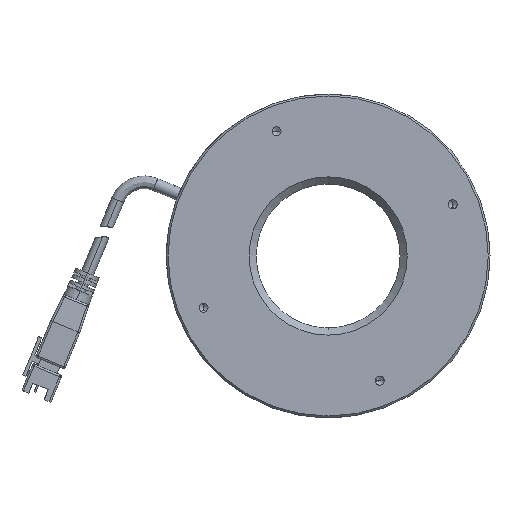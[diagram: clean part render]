
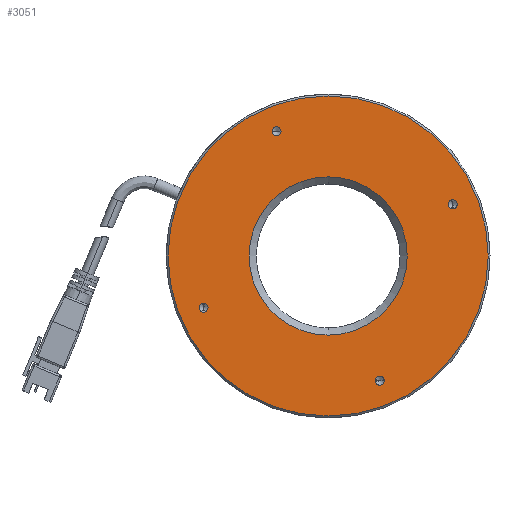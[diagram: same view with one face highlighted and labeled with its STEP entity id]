
A CAD part, front view. The second image highlights one B-rep face of the part: STEP entity #3051.
In plain terms, the highlighted planar face has unit normal (0, -1, 0).
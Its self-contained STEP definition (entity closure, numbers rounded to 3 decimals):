
#26 = EDGE_CURVE ( 'NONE', #2701, #7366, #5232, .T. ) ;
#139 = CIRCLE ( 'NONE', #7300, 44.5 ) ;
#290 = AXIS2_PLACEMENT_3D ( 'NONE', #5223, #8758, #878 ) ;
#328 = CARTESIAN_POINT ( 'NONE',  ( 34.645, 0., 13.101 ) ) ;
#419 = ORIENTED_EDGE ( 'NONE', *, *, #1535, .F. ) ;
#447 = EDGE_LOOP ( 'NONE', ( #3744, #1683 ) ) ;
#519 = EDGE_LOOP ( 'NONE', ( #5827, #10373 ) ) ;
#576 = DIRECTION ( 'NONE',  ( 0., 0., 1. ) ) ;
#679 = CARTESIAN_POINT ( 'NONE',  ( 0., 0., 44.5 ) ) ;
#720 = CARTESIAN_POINT ( 'NONE',  ( 13.101, 0., -34.645 ) ) ;
#878 = DIRECTION ( 'NONE',  ( 0., 0., -1. ) ) ;
#932 = PLANE ( 'NONE',  #290 ) ;
#1076 = CARTESIAN_POINT ( 'NONE',  ( -34.645, 0., -15.601 ) ) ;
#1204 = EDGE_CURVE ( 'NONE', #5862, #9788, #9324, .T. ) ;
#1443 = CIRCLE ( 'NONE', #2912, 22. ) ;
#1461 = DIRECTION ( 'NONE',  ( -1., 0., 0. ) ) ;
#1535 = EDGE_CURVE ( 'NONE', #9788, #5862, #139, .T. ) ;
#1655 = CARTESIAN_POINT ( 'NONE',  ( -15.601, 0., 34.645 ) ) ;
#1683 = ORIENTED_EDGE ( 'NONE', *, *, #6197, .F. ) ;
#1704 = ORIENTED_EDGE ( 'NONE', *, *, #8260, .T. ) ;
#1710 = AXIS2_PLACEMENT_3D ( 'NONE', #8485, #3916, #5749 ) ;
#1925 = CARTESIAN_POINT ( 'NONE',  ( -13.101, 0., 34.645 ) ) ;
#2028 = ORIENTED_EDGE ( 'NONE', *, *, #4480, .F. ) ;
#2073 = CARTESIAN_POINT ( 'NONE',  ( 0., 0., -44.5 ) ) ;
#2082 = CIRCLE ( 'NONE', #3563, 1.25 ) ;
#2164 = DIRECTION ( 'NONE',  ( 0., 0., 1. ) ) ;
#2266 = DIRECTION ( 'NONE',  ( 0., 0., 1. ) ) ;
#2272 = CIRCLE ( 'NONE', #8724, 1.25 ) ;
#2315 = EDGE_CURVE ( 'NONE', #4868, #5510, #3574, .T. ) ;
#2701 = VERTEX_POINT ( 'NONE', #8271 ) ;
#2809 = FACE_BOUND ( 'NONE', #9261, .T. ) ;
#2826 = EDGE_LOOP ( 'NONE', ( #7167, #419 ) ) ;
#2912 = AXIS2_PLACEMENT_3D ( 'NONE', #10711, #8312, #6909 ) ;
#3051 = ADVANCED_FACE ( 'NONE', ( #6971, #10532, #8056, #2809, #7080, #9613 ), #932, .T. ) ;
#3222 = CARTESIAN_POINT ( 'NONE',  ( 34.645, 0., 14.351 ) ) ;
#3242 = DIRECTION ( 'NONE',  ( -1., 0., 0. ) ) ;
#3282 = DIRECTION ( 'NONE',  ( 1., 0., 0. ) ) ;
#3340 = CARTESIAN_POINT ( 'NONE',  ( 15.601, 0., -34.645 ) ) ;
#3563 = AXIS2_PLACEMENT_3D ( 'NONE', #8637, #6667, #3282 ) ;
#3574 = CIRCLE ( 'NONE', #10380, 1.25 ) ;
#3744 = ORIENTED_EDGE ( 'NONE', *, *, #26, .F. ) ;
#3876 = DIRECTION ( 'NONE',  ( 0., 1., 0. ) ) ;
#3916 = DIRECTION ( 'NONE',  ( 0., -1., 0. ) ) ;
#3932 = CARTESIAN_POINT ( 'NONE',  ( 0., 0., 0. ) ) ;
#4237 = DIRECTION ( 'NONE',  ( 0., -1., 0. ) ) ;
#4399 = VERTEX_POINT ( 'NONE', #1655 ) ;
#4480 = EDGE_CURVE ( 'NONE', #5568, #4694, #2272, .T. ) ;
#4639 = EDGE_CURVE ( 'NONE', #8862, #4399, #6276, .T. ) ;
#4694 = VERTEX_POINT ( 'NONE', #5816 ) ;
#4717 = CIRCLE ( 'NONE', #11357, 22. ) ;
#4868 = VERTEX_POINT ( 'NONE', #720 ) ;
#5223 = CARTESIAN_POINT ( 'NONE',  ( 0., 0., 0. ) ) ;
#5232 = CIRCLE ( 'NONE', #6344, 1.25 ) ;
#5489 = EDGE_CURVE ( 'NONE', #5510, #4868, #2082, .T. ) ;
#5495 = DIRECTION ( 'NONE',  ( 1., 0., 0. ) ) ;
#5510 = VERTEX_POINT ( 'NONE', #3340 ) ;
#5549 = CARTESIAN_POINT ( 'NONE',  ( 0., 0., 0. ) ) ;
#5568 = VERTEX_POINT ( 'NONE', #1076 ) ;
#5569 = CARTESIAN_POINT ( 'NONE',  ( -14.351, 0., 34.645 ) ) ;
#5695 = DIRECTION ( 'NONE',  ( 0., -1., 0. ) ) ;
#5734 = CARTESIAN_POINT ( 'NONE',  ( -34.645, 0., -14.351 ) ) ;
#5749 = DIRECTION ( 'NONE',  ( 0., 0., 1. ) ) ;
#5787 = VERTEX_POINT ( 'NONE', #10968 ) ;
#5816 = CARTESIAN_POINT ( 'NONE',  ( -34.645, 0., -13.101 ) ) ;
#5827 = ORIENTED_EDGE ( 'NONE', *, *, #5489, .F. ) ;
#5862 = VERTEX_POINT ( 'NONE', #679 ) ;
#5956 = DIRECTION ( 'NONE',  ( 0., -1., 0. ) ) ;
#5974 = VERTEX_POINT ( 'NONE', #8132 ) ;
#6113 = CIRCLE ( 'NONE', #1710, 1.25 ) ;
#6197 = EDGE_CURVE ( 'NONE', #7366, #2701, #6113, .T. ) ;
#6276 = CIRCLE ( 'NONE', #9428, 1.25 ) ;
#6344 = AXIS2_PLACEMENT_3D ( 'NONE', #3222, #5956, #7651 ) ;
#6354 = CARTESIAN_POINT ( 'NONE',  ( 14.351, 0., -34.645 ) ) ;
#6597 = CARTESIAN_POINT ( 'NONE',  ( 0., 0., 0. ) ) ;
#6631 = EDGE_CURVE ( 'NONE', #4694, #5568, #9120, .T. ) ;
#6667 = DIRECTION ( 'NONE',  ( 0., -1., 0. ) ) ;
#6842 = DIRECTION ( 'NONE',  ( 0., -1., 0. ) ) ;
#6909 = DIRECTION ( 'NONE',  ( 0., 0., 1. ) ) ;
#6971 = FACE_BOUND ( 'NONE', #8303, .T. ) ;
#7080 = FACE_BOUND ( 'NONE', #9408, .T. ) ;
#7167 = ORIENTED_EDGE ( 'NONE', *, *, #1204, .F. ) ;
#7269 = ORIENTED_EDGE ( 'NONE', *, *, #4639, .F. ) ;
#7300 = AXIS2_PLACEMENT_3D ( 'NONE', #3932, #3876, #2266 ) ;
#7366 = VERTEX_POINT ( 'NONE', #328 ) ;
#7372 = DIRECTION ( 'NONE',  ( 0., -1., 0. ) ) ;
#7651 = DIRECTION ( 'NONE',  ( 0., 0., 1. ) ) ;
#7697 = DIRECTION ( 'NONE',  ( 0., 1., 0. ) ) ;
#7892 = ORIENTED_EDGE ( 'NONE', *, *, #11131, .F. ) ;
#7905 = EDGE_CURVE ( 'NONE', #5787, #5974, #1443, .T. ) ;
#8056 = FACE_BOUND ( 'NONE', #519, .T. ) ;
#8132 = CARTESIAN_POINT ( 'NONE',  ( 0., 0., 22. ) ) ;
#8260 = EDGE_CURVE ( 'NONE', #5974, #5787, #4717, .T. ) ;
#8271 = CARTESIAN_POINT ( 'NONE',  ( 34.645, 0., 15.601 ) ) ;
#8303 = EDGE_LOOP ( 'NONE', ( #7892, #7269 ) ) ;
#8312 = DIRECTION ( 'NONE',  ( 0., 1., 0. ) ) ;
#8459 = CARTESIAN_POINT ( 'NONE',  ( -34.645, 0., -14.351 ) ) ;
#8485 = CARTESIAN_POINT ( 'NONE',  ( 34.645, 0., 14.351 ) ) ;
#8540 = CARTESIAN_POINT ( 'NONE',  ( -14.351, 0., 34.645 ) ) ;
#8637 = CARTESIAN_POINT ( 'NONE',  ( 14.351, 0., -34.645 ) ) ;
#8724 = AXIS2_PLACEMENT_3D ( 'NONE', #8459, #4237, #10296 ) ;
#8758 = DIRECTION ( 'NONE',  ( 0., -1., 0. ) ) ;
#8862 = VERTEX_POINT ( 'NONE', #1925 ) ;
#9120 = CIRCLE ( 'NONE', #9855, 1.25 ) ;
#9261 = EDGE_LOOP ( 'NONE', ( #2028, #10106 ) ) ;
#9324 = CIRCLE ( 'NONE', #9505, 44.5 ) ;
#9372 = CIRCLE ( 'NONE', #10105, 1.25 ) ;
#9408 = EDGE_LOOP ( 'NONE', ( #10077, #1704 ) ) ;
#9428 = AXIS2_PLACEMENT_3D ( 'NONE', #5569, #7372, #1461 ) ;
#9505 = AXIS2_PLACEMENT_3D ( 'NONE', #6597, #7697, #2164 ) ;
#9605 = DIRECTION ( 'NONE',  ( 0., 0., -1. ) ) ;
#9613 = FACE_OUTER_BOUND ( 'NONE', #2826, .T. ) ;
#9788 = VERTEX_POINT ( 'NONE', #2073 ) ;
#9855 = AXIS2_PLACEMENT_3D ( 'NONE', #5734, #6842, #9605 ) ;
#9883 = DIRECTION ( 'NONE',  ( 0., -1., 0. ) ) ;
#10058 = DIRECTION ( 'NONE',  ( 0., 1., 0. ) ) ;
#10077 = ORIENTED_EDGE ( 'NONE', *, *, #7905, .T. ) ;
#10105 = AXIS2_PLACEMENT_3D ( 'NONE', #8540, #5695, #3242 ) ;
#10106 = ORIENTED_EDGE ( 'NONE', *, *, #6631, .F. ) ;
#10296 = DIRECTION ( 'NONE',  ( 0., 0., -1. ) ) ;
#10373 = ORIENTED_EDGE ( 'NONE', *, *, #2315, .F. ) ;
#10380 = AXIS2_PLACEMENT_3D ( 'NONE', #6354, #9883, #5495 ) ;
#10532 = FACE_BOUND ( 'NONE', #447, .T. ) ;
#10711 = CARTESIAN_POINT ( 'NONE',  ( 0., 0., 0. ) ) ;
#10968 = CARTESIAN_POINT ( 'NONE',  ( 0., 0., -22. ) ) ;
#11131 = EDGE_CURVE ( 'NONE', #4399, #8862, #9372, .T. ) ;
#11357 = AXIS2_PLACEMENT_3D ( 'NONE', #5549, #10058, #576 ) ;
